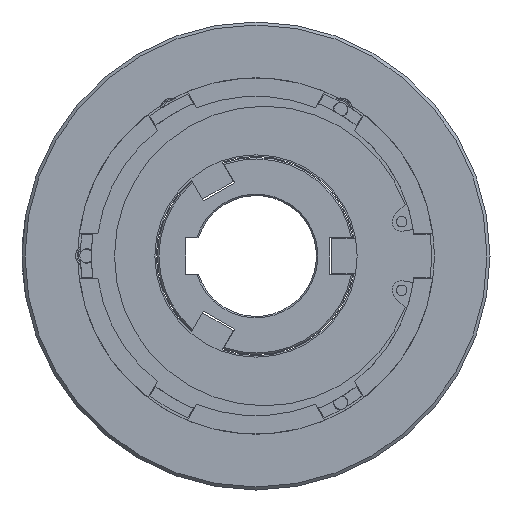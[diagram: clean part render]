
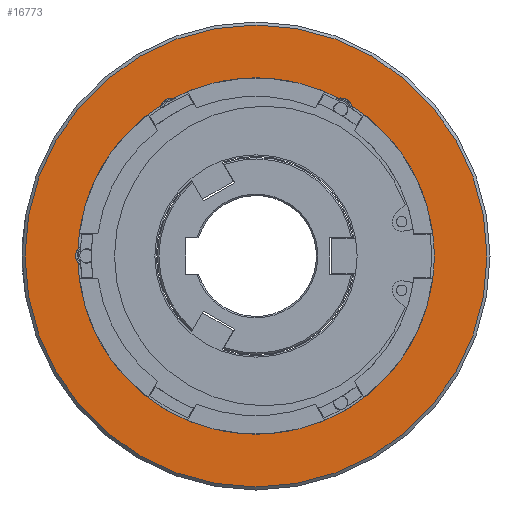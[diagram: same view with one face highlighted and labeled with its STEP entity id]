
A CAD part, left-side view. The second image highlights one B-rep face of the part: STEP entity #16773.
In plain terms, the highlighted planar face has unit normal (-1, 0, 0).
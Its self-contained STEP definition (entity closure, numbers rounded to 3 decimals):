
#1362=FACE_BOUND('',#5561,.T.);
#3869=PLANE('',#18238);
#4602=FACE_OUTER_BOUND('',#5560,.T.);
#5560=EDGE_LOOP('',(#14278));
#5561=EDGE_LOOP('',(#14279,#14280));
#6773=CIRCLE('',#18237,76.5);
#6774=CIRCLE('',#18239,59.);
#6775=CIRCLE('',#18240,59.);
#8252=VERTEX_POINT('',#52595);
#8253=VERTEX_POINT('',#52599);
#8254=VERTEX_POINT('',#52600);
#10421=EDGE_CURVE('',#8252,#8252,#6773,.T.);
#10422=EDGE_CURVE('',#8253,#8254,#6774,.T.);
#10423=EDGE_CURVE('',#8254,#8253,#6775,.T.);
#14278=ORIENTED_EDGE('',*,*,#10421,.F.);
#14279=ORIENTED_EDGE('',*,*,#10422,.T.);
#14280=ORIENTED_EDGE('',*,*,#10423,.T.);
#16773=ADVANCED_FACE('',(#4602,#1362),#3869,.T.);
#18237=AXIS2_PLACEMENT_3D('',#52597,#21674,#21675);
#18238=AXIS2_PLACEMENT_3D('',#52598,#21676,#21677);
#18239=AXIS2_PLACEMENT_3D('',#52601,#21678,#21679);
#18240=AXIS2_PLACEMENT_3D('',#52602,#21680,#21681);
#21674=DIRECTION('center_axis',(1.,0.,0.));
#21675=DIRECTION('ref_axis',(0.,-1.,0.));
#21676=DIRECTION('center_axis',(-1.,0.,0.));
#21677=DIRECTION('ref_axis',(0.,0.,
1.));
#21678=DIRECTION('center_axis',(1.,0.,0.));
#21679=DIRECTION('ref_axis',(0.,1.,0.));
#21680=DIRECTION('center_axis',(1.,0.,0.));
#21681=DIRECTION('ref_axis',(0.,1.,0.));
#52595=CARTESIAN_POINT('',(-32.5,76.5,0.));
#52597=CARTESIAN_POINT('Origin',(-32.5,0.,0.));
#52598=CARTESIAN_POINT('Origin',(-32.5,68.25,0.));
#52599=CARTESIAN_POINT('',(-32.5,59.,0.));
#52600=CARTESIAN_POINT('',(-32.5,-59.,0.));
#52601=CARTESIAN_POINT('Origin',(-32.5,0.,0.));
#52602=CARTESIAN_POINT('Origin',(-32.5,0.,0.));
